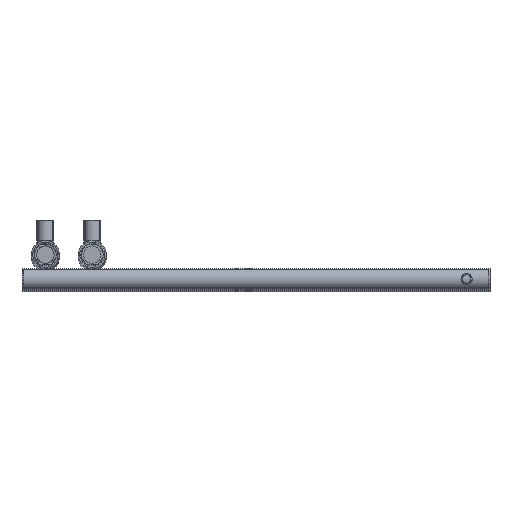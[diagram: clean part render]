
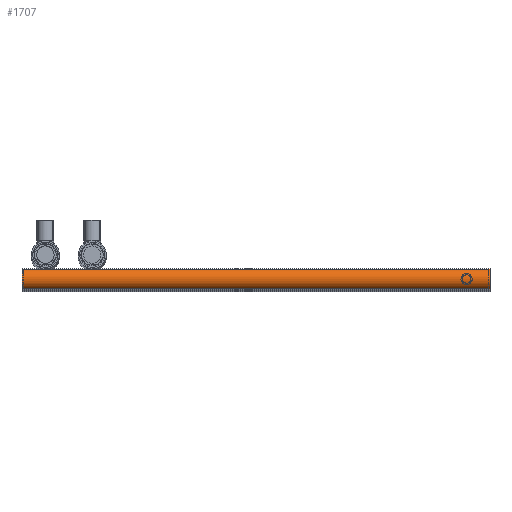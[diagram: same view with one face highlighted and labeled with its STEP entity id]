
A CAD part, top view. The second image highlights one B-rep face of the part: STEP entity #1707.
In plain terms, the highlighted cylindrical face has radius 11 mm (diameter 22 mm), a full revolution.
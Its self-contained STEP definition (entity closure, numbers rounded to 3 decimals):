
#394=CIRCLE('',#1852,11.);
#395=CIRCLE('',#1854,11.);
#538=FACE_BOUND('',#796,.T.);
#601=FACE_OUTER_BOUND('',#795,.T.);
#795=EDGE_LOOP('',(#1509));
#796=EDGE_LOOP('',(#1510));
#1063=VERTEX_POINT('',#5117);
#1064=VERTEX_POINT('',#5120);
#1220=EDGE_CURVE('',#1063,#1063,#394,.T.);
#1221=EDGE_CURVE('',#1064,#1064,#395,.T.);
#1509=ORIENTED_EDGE('',*,*,#1221,.F.);
#1510=ORIENTED_EDGE('',*,*,#1220,.T.);
#1650=CYLINDRICAL_SURFACE('',#1855,11.);
#1707=ADVANCED_FACE('',(#601,#538),#1650,.T.);
#1852=AXIS2_PLACEMENT_3D('',#5118,#2102,#2103);
#1854=AXIS2_PLACEMENT_3D('',#5121,#2106,#2107);
#1855=AXIS2_PLACEMENT_3D('',#5122,#2108,#2109);
#2102=DIRECTION('center_axis',(0.,0.,-1.));
#2103=DIRECTION('ref_axis',(-1.,0.,0.));
#2106=DIRECTION('center_axis',(0.,0.,-1.));
#2107=DIRECTION('ref_axis',(-1.,0.,0.));
#2108=DIRECTION('center_axis',(0.,0.,-1.));
#2109=DIRECTION('ref_axis',(-1.,0.,0.));
#5117=CARTESIAN_POINT('',(11.,-11.,0.));
#5118=CARTESIAN_POINT('Origin',(0.,-11.,0.));
#5120=CARTESIAN_POINT('',(11.,-11.,-500.));
#5121=CARTESIAN_POINT('Origin',(0.,-11.,-500.));
#5122=CARTESIAN_POINT('Origin',(0.,-11.,0.));
